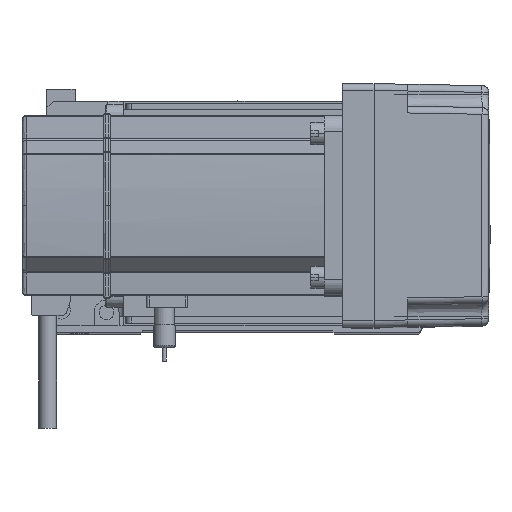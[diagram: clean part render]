
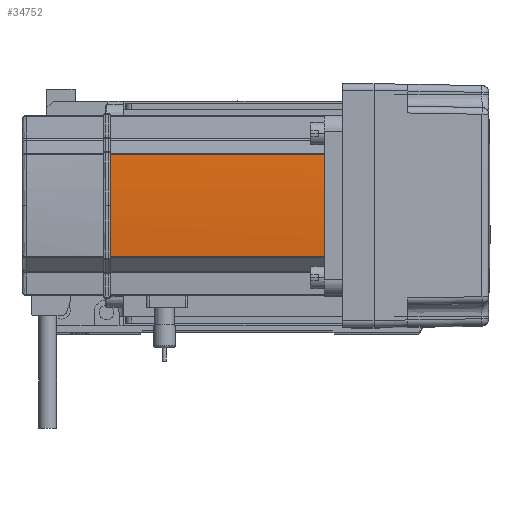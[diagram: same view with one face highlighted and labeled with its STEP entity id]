
A CAD part, top view. The second image highlights one B-rep face of the part: STEP entity #34752.
In plain terms, the highlighted cylindrical face has radius 270 mm (diameter 540 mm), a partial arc.
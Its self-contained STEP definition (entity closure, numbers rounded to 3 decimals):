
#131 = EDGE_CURVE ( 'NONE', #48179, #15885, #41897, .T. ) ;
#626 = ORIENTED_EDGE ( 'NONE', *, *, #131, .T. ) ;
#1417 = VERTEX_POINT ( 'NONE', #43715 ) ;
#3685 = DIRECTION ( 'NONE',  ( 1., 0., 0. ) ) ;
#7597 = AXIS2_PLACEMENT_3D ( 'NONE', #24815, #16906, #46957 ) ;
#8690 = AXIS2_PLACEMENT_3D ( 'NONE', #35368, #39539, #21861 ) ;
#8703 = CARTESIAN_POINT ( 'NONE',  ( -40., 0., 134. ) ) ;
#11743 = DIRECTION ( 'NONE',  ( 0., 0., -1. ) ) ;
#13812 = VERTEX_POINT ( 'NONE', #52114 ) ;
#14158 = CARTESIAN_POINT ( 'NONE',  ( -39.042, 22.724, 134. ) ) ;
#14864 = ORIENTED_EDGE ( 'NONE', *, *, #33124, .T. ) ;
#15277 = EDGE_CURVE ( 'NONE', #15885, #49746, #19052, .T. ) ;
#15885 = VERTEX_POINT ( 'NONE', #8703 ) ;
#16906 = DIRECTION ( 'NONE',  ( 0., 0., -1. ) ) ;
#17244 = CARTESIAN_POINT ( 'NONE',  ( -39.042, 22.724, 0. ) ) ;
#17868 = VECTOR ( 'NONE', #47108, 1000. ) ;
#18647 = AXIS2_PLACEMENT_3D ( 'NONE', #19480, #28135, #36793 ) ;
#19052 = CIRCLE ( 'NONE', #7597, 270. ) ;
#19330 = EDGE_LOOP ( 'NONE', ( #626, #51631, #14864, #34890, #24865 ) ) ;
#19480 = CARTESIAN_POINT ( 'NONE',  ( 230., 0., 39. ) ) ;
#21861 = DIRECTION ( 'NONE',  ( 1., 0., 0. ) ) ;
#24039 = CARTESIAN_POINT ( 'NONE',  ( -39.042, -22.724, 134. ) ) ;
#24815 = CARTESIAN_POINT ( 'NONE',  ( 230., 0., 134. ) ) ;
#24865 = ORIENTED_EDGE ( 'NONE', *, *, #38651, .T. ) ;
#28135 = DIRECTION ( 'NONE',  ( 0., 0., -1. ) ) ;
#28839 = CARTESIAN_POINT ( 'NONE',  ( 230., 0., 134. ) ) ;
#32628 = CYLINDRICAL_SURFACE ( 'NONE', #8690, 270. ) ;
#33124 = EDGE_CURVE ( 'NONE', #49746, #1417, #33300, .T. ) ;
#33300 = LINE ( 'NONE', #17244, #17868 ) ;
#34752 = ADVANCED_FACE ( 'NONE', ( #50817 ), #32628, .T. ) ;
#34890 = ORIENTED_EDGE ( 'NONE', *, *, #49372, .F. ) ;
#35368 = CARTESIAN_POINT ( 'NONE',  ( 230., 0., 0. ) ) ;
#36793 = DIRECTION ( 'NONE',  ( 1., 0., 0. ) ) ;
#38341 = VECTOR ( 'NONE', #47246, 1000. ) ;
#38651 = EDGE_CURVE ( 'NONE', #13812, #48179, #51084, .T. ) ;
#39539 = DIRECTION ( 'NONE',  ( 0., 0., 1. ) ) ;
#41213 = AXIS2_PLACEMENT_3D ( 'NONE', #28839, #11743, #3685 ) ;
#41897 = CIRCLE ( 'NONE', #41213, 270. ) ;
#43715 = CARTESIAN_POINT ( 'NONE',  ( -39.042, 22.724, 39. ) ) ;
#46957 = DIRECTION ( 'NONE',  ( 1., 0., 0. ) ) ;
#47108 = DIRECTION ( 'NONE',  ( 0., 0., -1. ) ) ;
#47246 = DIRECTION ( 'NONE',  ( 0., 0., 1. ) ) ;
#48179 = VERTEX_POINT ( 'NONE', #24039 ) ;
#49372 = EDGE_CURVE ( 'NONE', #13812, #1417, #52451, .T. ) ;
#49746 = VERTEX_POINT ( 'NONE', #14158 ) ;
#50817 = FACE_OUTER_BOUND ( 'NONE', #19330, .T. ) ;
#51000 = CARTESIAN_POINT ( 'NONE',  ( -39.042, -22.724, 0. ) ) ;
#51084 = LINE ( 'NONE', #51000, #38341 ) ;
#51631 = ORIENTED_EDGE ( 'NONE', *, *, #15277, .T. ) ;
#52114 = CARTESIAN_POINT ( 'NONE',  ( -39.042, -22.724, 39. ) ) ;
#52451 = CIRCLE ( 'NONE', #18647, 270. ) ;
